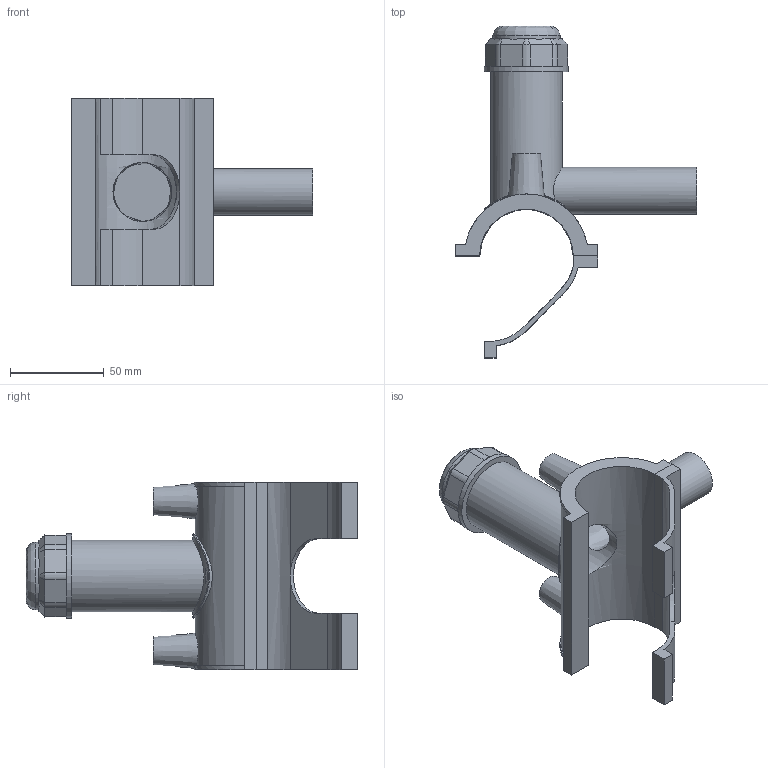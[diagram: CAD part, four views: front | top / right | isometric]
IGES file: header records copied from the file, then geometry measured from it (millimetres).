
Global section: file name: 496304050025.ipt; native system: Autodesk Inventor 2015; preprocessor: unknown; author: KIM; date: 20190124.130611; units: millimetre
Bounding box: 129 x 177.37 x 100 mm (x, y, z)
Volume: 169305.2 mm3; surface area: 71199.6 mm2
Topology: 2 solids, 2 shells, 111 faces, 283 edges, 185 vertices
Faces by surface type: plane 66, cylinder 23, cone 11, revolution 10, bspline 1
Full cylindrical faces by diameter (mm): 4 x2, 25 x1, 36 x1, 38.25 x1, 45 x1
